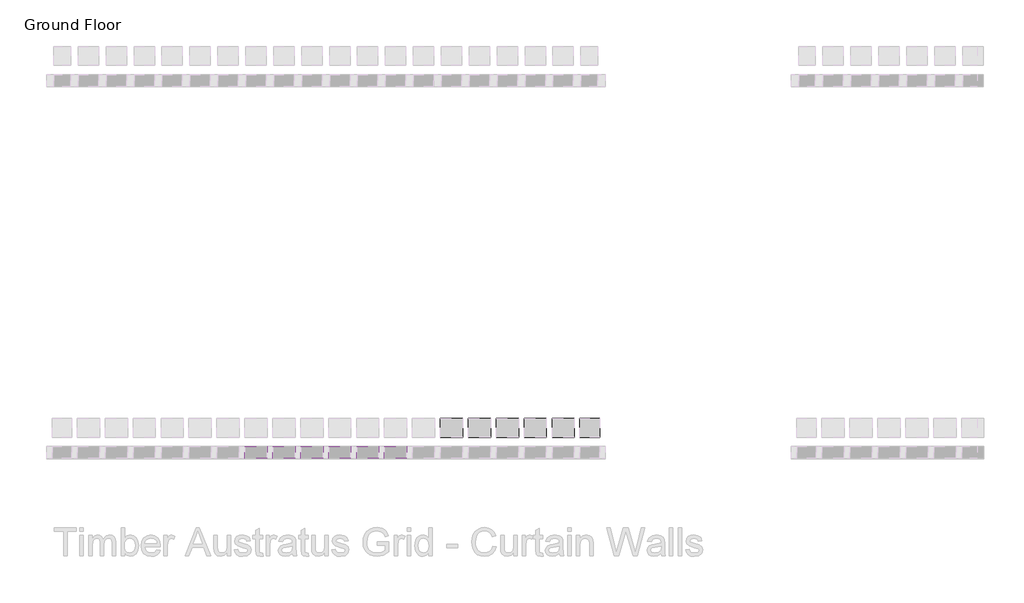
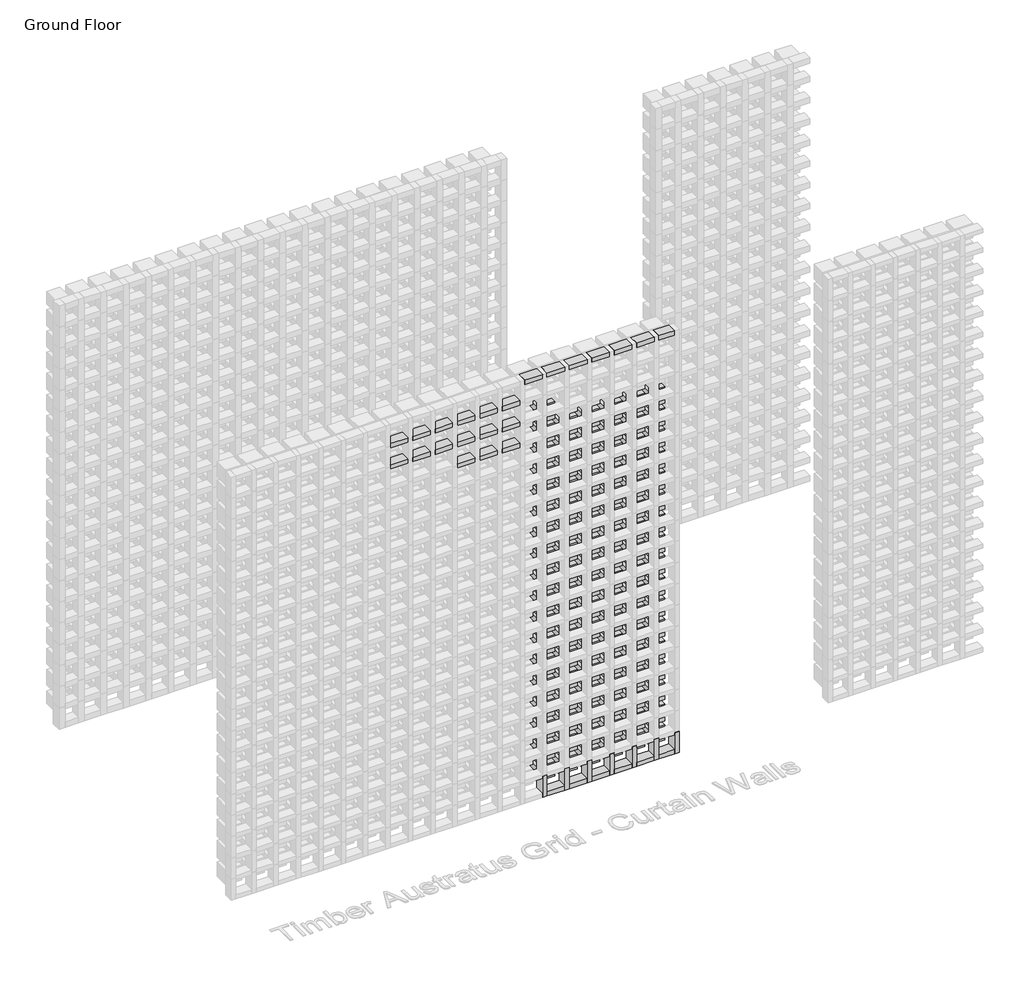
# One storey, part 52 of 350: 103 plates, 35 members.
"""IFC4 building model written with IfcOpenShell, lengths in millimetres."""

from ifc_helpers import new_model, si_unit, origin, place, context, project, spatial, transform, mapped, element, save
from components import rectangular_mullion_1c916715, rectangular_mullion_5b501421, rectangular_mullion_f2fcf417, rectangular_mullion_51467dcc, rectangular_mullion_27b03f3e, rectangular_mullion_d4c9a775, rectangular_mullion_a9727e9f, empty_system_panel_empty_a57e421f, empty_system_panel_empty_fe50b430, empty_system_panel_empty_3353a095, empty_system_panel_empty_0cf761f0

model = new_model("IFC4")

# Units and contexts
model_context = context("Model", 3, world=origin())
ifc_project = project(units=[si_unit("LENGTHUNIT", "METRE", prefix="MILLI")], contexts=[model_context])

# Site, building, storey
site = spatial("IfcSite", under=ifc_project)
building = spatial("IfcBuilding", under=site)
storey = spatial("IfcBuildingStorey", under=building, Name="Ground Floor", Elevation=0.0)

# Members
placement = place(None, origin())
rectangular_mullion_shape = rectangular_mullion_1c916715(model_context)
element("IfcMember", 1, ObjectType="Rectangular Mullion : Batten_Timber_Modinex_Austratus_Grid_Fascia_30x65_AlaskanYellowCedar", at=placement, inside=storey, context=model_context, shape_type="MappedRepresentation", body=[
    mapped(rectangular_mullion_shape, transform((3551.4361642, 38968.2978302, 2550.0), x_axis=(0.0, 0.0, 1.0), y_axis=(0.0, -1.0, 0.0), z_axis=(1.0, 0.0, 0.0))),
])
element("IfcMember", 2, ObjectType="Rectangular Mullion : Batten_Timber_Modinex_Austratus_Grid_Fascia_30x65_AlaskanYellowCedar", at=placement, inside=storey, context=model_context, shape_type="MappedRepresentation", body=[
    mapped(rectangular_mullion_shape, transform((3701.4361642, 38968.2978302, 2550.0), x_axis=(0.0, 0.0, 1.0), y_axis=(0.0, -1.0, 0.0), z_axis=(1.0, 0.0, 0.0))),
])
element("IfcMember", 3, ObjectType="Rectangular Mullion : Batten_Timber_Modinex_Austratus_Grid_Fascia_30x65_AlaskanYellowCedar", at=placement, inside=storey, context=model_context, shape_type="MappedRepresentation", body=[
    mapped(rectangular_mullion_shape, transform((3851.4361642, 38968.2978302, 2550.0), x_axis=(0.0, 0.0, 1.0), y_axis=(0.0, -1.0, 0.0), z_axis=(1.0, 0.0, 0.0))),
])
element("IfcMember", 4, ObjectType="Rectangular Mullion : Batten_Timber_Modinex_Austratus_Grid_Fascia_30x65_AlaskanYellowCedar", at=placement, inside=storey, context=model_context, shape_type="MappedRepresentation", body=[
    mapped(rectangular_mullion_shape, transform((3101.4361642, 38968.2978302, 2700.0), x_axis=(0.0, 0.0, 1.0), y_axis=(0.0, -1.0, 0.0), z_axis=(1.0, 0.0, 0.0))),
])
element("IfcMember", 5, ObjectType="Rectangular Mullion : Batten_Timber_Modinex_Austratus_Grid_Fascia_30x65_AlaskanYellowCedar", at=placement, inside=storey, context=model_context, shape_type="MappedRepresentation", body=[
    mapped(rectangular_mullion_shape, transform((3251.4361642, 38968.2978302, 2700.0), x_axis=(0.0, 0.0, 1.0), y_axis=(0.0, -1.0, 0.0), z_axis=(1.0, 0.0, 0.0))),
])
element("IfcMember", 6, ObjectType="Rectangular Mullion : Batten_Timber_Modinex_Austratus_Grid_Fascia_30x65_AlaskanYellowCedar", at=placement, inside=storey, context=model_context, shape_type="MappedRepresentation", body=[
    mapped(rectangular_mullion_shape, transform((3401.4361642, 38968.2978302, 2700.0), x_axis=(0.0, 0.0, 1.0), y_axis=(0.0, -1.0, 0.0), z_axis=(1.0, 0.0, 0.0))),
])
element("IfcMember", 7, ObjectType="Rectangular Mullion : Batten_Timber_Modinex_Austratus_Grid_Fascia_30x65_AlaskanYellowCedar", at=placement, inside=storey, context=model_context, shape_type="MappedRepresentation", body=[
    mapped(rectangular_mullion_shape, transform((3551.4361642, 38968.2978302, 2700.0), x_axis=(0.0, 0.0, 1.0), y_axis=(0.0, -1.0, 0.0), z_axis=(1.0, 0.0, 0.0))),
])
element("IfcMember", 8, ObjectType="Rectangular Mullion : Batten_Timber_Modinex_Austratus_Grid_Fascia_30x65_AlaskanYellowCedar", at=placement, inside=storey, context=model_context, shape_type="MappedRepresentation", body=[
    mapped(rectangular_mullion_shape, transform((3701.4361642, 38968.2978302, 2700.0), x_axis=(0.0, 0.0, 1.0), y_axis=(0.0, -1.0, 0.0), z_axis=(1.0, 0.0, 0.0))),
])
element("IfcMember", 9, ObjectType="Rectangular Mullion : Batten_Timber_Modinex_Austratus_Grid_Fascia_30x65_AlaskanYellowCedar", at=placement, inside=storey, context=model_context, shape_type="MappedRepresentation", body=[
    mapped(rectangular_mullion_shape, transform((3851.4361642, 38968.2978302, 2700.0), x_axis=(0.0, 0.0, 1.0), y_axis=(0.0, -1.0, 0.0), z_axis=(1.0, 0.0, 0.0))),
])
element("IfcMember", 10, ObjectType="Rectangular Mullion : Batten_Timber_Modinex_Austratus_Grid_Fascia_30x65_AlaskanYellowCedar", at=placement, inside=storey, context=model_context, shape_type="MappedRepresentation", body=[
    mapped(rectangular_mullion_shape, transform((3101.4361642, 38968.2978302, 2850.0), x_axis=(0.0, 0.0, 1.0), y_axis=(0.0, -1.0, 0.0), z_axis=(1.0, 0.0, 0.0))),
])
element("IfcMember", 11, ObjectType="Rectangular Mullion : Batten_Timber_Modinex_Austratus_Grid_Fascia_30x65_AlaskanYellowCedar", at=placement, inside=storey, context=model_context, shape_type="MappedRepresentation", body=[
    mapped(rectangular_mullion_shape, transform((3251.4361642, 38968.2978302, 2850.0), x_axis=(0.0, 0.0, 1.0), y_axis=(0.0, -1.0, 0.0), z_axis=(1.0, 0.0, 0.0))),
])
element("IfcMember", 12, ObjectType="Rectangular Mullion : Batten_Timber_Modinex_Austratus_Grid_Fascia_30x65_AlaskanYellowCedar", at=placement, inside=storey, context=model_context, shape_type="MappedRepresentation", body=[
    mapped(rectangular_mullion_shape, transform((3401.4361642, 38968.2978302, 2850.0), x_axis=(0.0, 0.0, 1.0), y_axis=(0.0, -1.0, 0.0), z_axis=(1.0, 0.0, 0.0))),
])
element("IfcMember", 13, ObjectType="Rectangular Mullion : Batten_Timber_Modinex_Austratus_Grid_Fascia_30x65_AlaskanYellowCedar", at=placement, inside=storey, context=model_context, shape_type="MappedRepresentation", body=[
    mapped(rectangular_mullion_shape, transform((3551.4361642, 38968.2978302, 2850.0), x_axis=(0.0, 0.0, 1.0), y_axis=(0.0, -1.0, 0.0), z_axis=(1.0, 0.0, 0.0))),
])
element("IfcMember", 14, ObjectType="Rectangular Mullion : Batten_Timber_Modinex_Austratus_Grid_Fascia_30x65_AlaskanYellowCedar", at=placement, inside=storey, context=model_context, shape_type="MappedRepresentation", body=[
    mapped(rectangular_mullion_shape, transform((3701.4361642, 38968.2978302, 2850.0), x_axis=(0.0, 0.0, 1.0), y_axis=(0.0, -1.0, 0.0), z_axis=(1.0, 0.0, 0.0))),
])
element("IfcMember", 15, ObjectType="Rectangular Mullion : Batten_Timber_Modinex_Austratus_Grid_Fascia_30x65_AlaskanYellowCedar", at=placement, inside=storey, context=model_context, shape_type="MappedRepresentation", body=[
    mapped(rectangular_mullion_shape, transform((3851.4361642, 38968.2978302, 2850.0), x_axis=(0.0, 0.0, 1.0), y_axis=(0.0, -1.0, 0.0), z_axis=(1.0, 0.0, 0.0))),
])
rectangular_mullion_2_shape = rectangular_mullion_5b501421(model_context)
element("IfcMember", 16, ObjectType="Rectangular Mullion : Batten_Timber_Modinex_Austratus_Grid_Fascia_30x65_AlaskanYellowCedar", at=placement, inside=storey, context=model_context, shape_type="MappedRepresentation", body=[
    mapped(rectangular_mullion_2_shape, transform((4016.4361642, 38968.2978302, 0.0), x_axis=(1.0, 0.0, 0.0), y_axis=(0.0, -1.0, 0.0), z_axis=(0.0, 0.0, -1.0))),
])
element("IfcMember", 17, ObjectType="Rectangular Mullion : Batten_Timber_Modinex_Austratus_Grid_Fascia_30x65_AlaskanYellowCedar", at=placement, inside=storey, context=model_context, shape_type="MappedRepresentation", body=[
    mapped(rectangular_mullion_2_shape, transform((4166.4361642, 38968.2978302, 0.0), x_axis=(1.0, 0.0, 0.0), y_axis=(0.0, -1.0, 0.0), z_axis=(0.0, 0.0, -1.0))),
])
element("IfcMember", 18, ObjectType="Rectangular Mullion : Batten_Timber_Modinex_Austratus_Grid_Fascia_30x65_AlaskanYellowCedar", at=placement, inside=storey, context=model_context, shape_type="MappedRepresentation", body=[
    mapped(rectangular_mullion_2_shape, transform((4316.4361642, 38968.2978302, 0.0), x_axis=(1.0, 0.0, 0.0), y_axis=(0.0, -1.0, 0.0), z_axis=(0.0, 0.0, -1.0))),
])
element("IfcMember", 19, ObjectType="Rectangular Mullion : Batten_Timber_Modinex_Austratus_Grid_Fascia_30x65_AlaskanYellowCedar", at=placement, inside=storey, context=model_context, shape_type="MappedRepresentation", body=[
    mapped(rectangular_mullion_2_shape, transform((4466.4361642, 38968.2978302, 0.0), x_axis=(1.0, 0.0, 0.0), y_axis=(0.0, -1.0, 0.0), z_axis=(0.0, 0.0, -1.0))),
])
element("IfcMember", 20, ObjectType="Rectangular Mullion : Batten_Timber_Modinex_Austratus_Grid_Fascia_30x65_AlaskanYellowCedar", at=placement, inside=storey, context=model_context, shape_type="MappedRepresentation", body=[
    mapped(rectangular_mullion_2_shape, transform((4616.4361642, 38968.2978302, 0.0), x_axis=(1.0, 0.0, 0.0), y_axis=(0.0, -1.0, 0.0), z_axis=(0.0, 0.0, -1.0))),
])
element("IfcMember", 21, ObjectType="Rectangular Mullion : Batten_Timber_Modinex_Austratus_Grid_Fascia_30x65_AlaskanYellowCedar", at=placement, inside=storey, context=model_context, shape_type="MappedRepresentation", body=[
    mapped(rectangular_mullion_2_shape, transform((4766.4361642, 38968.2978302, 0.0), x_axis=(1.0, 0.0, 0.0), y_axis=(0.0, -1.0, 0.0), z_axis=(0.0, 0.0, -1.0))),
])
rectangular_mullion_3_shape = rectangular_mullion_f2fcf417(model_context)
element("IfcMember", 22, ObjectType="Rectangular Mullion : Batten_Timber_Modinex_Austratus_Grid_Fascia_30x65_AlaskanYellowCedar", at=placement, inside=storey, context=model_context, shape_type="MappedRepresentation", body=[
    mapped(rectangular_mullion_3_shape, transform((4886.4361639, 38968.2978302, 3000.0), x_axis=(0.0, 0.0, 1.0), y_axis=(0.0, -1.0, 0.0), z_axis=(1.0, 0.0, 0.0))),
])
rectangular_mullion_4_shape = rectangular_mullion_51467dcc(model_context)
element("IfcMember", 23, ObjectType="Rectangular Mullion : Batten_Timber_Modinex_Austratus_Grid_Fascia_30x65_AlaskanYellowCedar", at=placement, inside=storey, context=model_context, shape_type="MappedRepresentation", body=[
    mapped(rectangular_mullion_4_shape, transform((4001.4361642, 38968.2978302, 3000.0), x_axis=(0.0, 0.0, 1.0), y_axis=(0.0, -1.0, 0.0), z_axis=(1.0, 0.0, 0.0))),
])
element("IfcMember", 24, ObjectType="Rectangular Mullion : Batten_Timber_Modinex_Austratus_Grid_Fascia_30x65_AlaskanYellowCedar", at=placement, inside=storey, context=model_context, shape_type="MappedRepresentation", body=[
    mapped(rectangular_mullion_4_shape, transform((4151.4361642, 38968.2978302, 3000.0), x_axis=(0.0, 0.0, 1.0), y_axis=(0.0, -1.0, 0.0), z_axis=(1.0, 0.0, 0.0))),
])
element("IfcMember", 25, ObjectType="Rectangular Mullion : Batten_Timber_Modinex_Austratus_Grid_Fascia_30x65_AlaskanYellowCedar", at=placement, inside=storey, context=model_context, shape_type="MappedRepresentation", body=[
    mapped(rectangular_mullion_4_shape, transform((4301.4361642, 38968.2978302, 3000.0), x_axis=(0.0, 0.0, 1.0), y_axis=(0.0, -1.0, 0.0), z_axis=(1.0, 0.0, 0.0))),
])
element("IfcMember", 26, ObjectType="Rectangular Mullion : Batten_Timber_Modinex_Austratus_Grid_Fascia_30x65_AlaskanYellowCedar", at=placement, inside=storey, context=model_context, shape_type="MappedRepresentation", body=[
    mapped(rectangular_mullion_4_shape, transform((4451.4361642, 38968.2978302, 3000.0), x_axis=(0.0, 0.0, 1.0), y_axis=(0.0, -1.0, 0.0), z_axis=(1.0, 0.0, 0.0))),
])
element("IfcMember", 27, ObjectType="Rectangular Mullion : Batten_Timber_Modinex_Austratus_Grid_Fascia_30x65_AlaskanYellowCedar", at=placement, inside=storey, context=model_context, shape_type="MappedRepresentation", body=[
    mapped(rectangular_mullion_4_shape, transform((4601.4361642, 38968.2978302, 3000.0), x_axis=(0.0, 0.0, 1.0), y_axis=(0.0, -1.0, 0.0), z_axis=(1.0, 0.0, 0.0))),
])
element("IfcMember", 28, ObjectType="Rectangular Mullion : Batten_Timber_Modinex_Austratus_Grid_Fascia_30x65_AlaskanYellowCedar", at=placement, inside=storey, context=model_context, shape_type="MappedRepresentation", body=[
    mapped(rectangular_mullion_4_shape, transform((4751.4361642, 38968.2978302, 3000.0), x_axis=(0.0, 0.0, 1.0), y_axis=(0.0, -1.0, 0.0), z_axis=(1.0, 0.0, 0.0))),
])
rectangular_mullion_5_shape = rectangular_mullion_27b03f3e(model_context)
element("IfcMember", 29, ObjectType="Rectangular Mullion : Batten_Timber_Modinex_Austratus_Grid_Fascia_30x65_AlaskanYellowCedar", at=placement, inside=storey, context=model_context, shape_type="MappedRepresentation", body=[
    mapped(rectangular_mullion_5_shape, transform((4781.4361642, 38968.2978302, 0.0), x_axis=(0.0, 0.0, -1.0), y_axis=(0.0, -1.0, 0.0), z_axis=(-1.0, 0.0, 0.0))),
])
rectangular_mullion_6_shape = rectangular_mullion_d4c9a775(model_context)
element("IfcMember", 30, ObjectType="Rectangular Mullion : Batten_Timber_Modinex_Austratus_Grid_Fascia_30x65_AlaskanYellowCedar", at=placement, inside=storey, context=model_context, shape_type="MappedRepresentation", body=[
    mapped(rectangular_mullion_6_shape, transform((4031.4361642, 38968.2978302, 0.0), x_axis=(0.0, 0.0, -1.0), y_axis=(0.0, -1.0, 0.0), z_axis=(-1.0, 0.0, 0.0))),
])
element("IfcMember", 31, ObjectType="Rectangular Mullion : Batten_Timber_Modinex_Austratus_Grid_Fascia_30x65_AlaskanYellowCedar", at=placement, inside=storey, context=model_context, shape_type="MappedRepresentation", body=[
    mapped(rectangular_mullion_6_shape, transform((4181.4361642, 38968.2978302, 0.0), x_axis=(0.0, 0.0, -1.0), y_axis=(0.0, -1.0, 0.0), z_axis=(-1.0, 0.0, 0.0))),
])
element("IfcMember", 32, ObjectType="Rectangular Mullion : Batten_Timber_Modinex_Austratus_Grid_Fascia_30x65_AlaskanYellowCedar", at=placement, inside=storey, context=model_context, shape_type="MappedRepresentation", body=[
    mapped(rectangular_mullion_6_shape, transform((4331.4361642, 38968.2978302, 0.0), x_axis=(0.0, 0.0, -1.0), y_axis=(0.0, -1.0, 0.0), z_axis=(-1.0, 0.0, 0.0))),
])
element("IfcMember", 33, ObjectType="Rectangular Mullion : Batten_Timber_Modinex_Austratus_Grid_Fascia_30x65_AlaskanYellowCedar", at=placement, inside=storey, context=model_context, shape_type="MappedRepresentation", body=[
    mapped(rectangular_mullion_6_shape, transform((4481.4361642, 38968.2978302, 0.0), x_axis=(0.0, 0.0, -1.0), y_axis=(0.0, -1.0, 0.0), z_axis=(-1.0, 0.0, 0.0))),
])
element("IfcMember", 34, ObjectType="Rectangular Mullion : Batten_Timber_Modinex_Austratus_Grid_Fascia_30x65_AlaskanYellowCedar", at=placement, inside=storey, context=model_context, shape_type="MappedRepresentation", body=[
    mapped(rectangular_mullion_6_shape, transform((4631.4361642, 38968.2978302, 0.0), x_axis=(0.0, 0.0, -1.0), y_axis=(0.0, -1.0, 0.0), z_axis=(-1.0, 0.0, 0.0))),
])
rectangular_mullion_7_shape = rectangular_mullion_a9727e9f(model_context)
element("IfcMember", 35, ObjectType="Rectangular Mullion : Batten_Timber_Modinex_Austratus_Grid_Fascia_30x65_AlaskanYellowCedar", at=placement, inside=storey, context=model_context, shape_type="MappedRepresentation", body=[
    mapped(rectangular_mullion_7_shape, transform((4916.4361639, 38968.2978302, 0.0), x_axis=(1.0, 0.0, 0.0), y_axis=(0.0, -1.0, 0.0), z_axis=(0.0, 0.0, -1.0))),
])

# Plates
empty_system_panel_empty_shape = empty_system_panel_empty_a57e421f(model_context)
element("IfcPlate", 36, ObjectType="Empty System Panel : Empty", at=placement, inside=storey, context=model_context, shape_type="MappedRepresentation", body=[
    mapped(empty_system_panel_empty_shape, transform((4091.4361642, 38968.2978302, 165.0), x_axis=(1.0, 0.0, 0.0), y_axis=(0.0, 1.0, 0.0), z_axis=(0.0, 0.0, 1.0))),
])
element("IfcPlate", 37, ObjectType="Empty System Panel : Empty", at=placement, inside=storey, context=model_context, shape_type="MappedRepresentation", body=[
    mapped(empty_system_panel_empty_shape, transform((4241.4361642, 38968.2978302, 165.0), x_axis=(1.0, 0.0, 0.0), y_axis=(0.0, 1.0, 0.0), z_axis=(0.0, 0.0, 1.0))),
])
element("IfcPlate", 38, ObjectType="Empty System Panel : Empty", at=placement, inside=storey, context=model_context, shape_type="MappedRepresentation", body=[
    mapped(empty_system_panel_empty_shape, transform((4391.4361642, 38968.2978302, 165.0), x_axis=(1.0, 0.0, 0.0), y_axis=(0.0, 1.0, 0.0), z_axis=(0.0, 0.0, 1.0))),
])
element("IfcPlate", 39, ObjectType="Empty System Panel : Empty", at=placement, inside=storey, context=model_context, shape_type="MappedRepresentation", body=[
    mapped(empty_system_panel_empty_shape, transform((4541.4361642, 38968.2978302, 165.0), x_axis=(1.0, 0.0, 0.0), y_axis=(0.0, 1.0, 0.0), z_axis=(0.0, 0.0, 1.0))),
])
element("IfcPlate", 40, ObjectType="Empty System Panel : Empty", at=placement, inside=storey, context=model_context, shape_type="MappedRepresentation", body=[
    mapped(empty_system_panel_empty_shape, transform((4691.4361642, 38968.2978302, 165.0), x_axis=(1.0, 0.0, 0.0), y_axis=(0.0, 1.0, 0.0), z_axis=(0.0, 0.0, 1.0))),
])
element("IfcPlate", 41, ObjectType="Empty System Panel : Empty", at=placement, inside=storey, context=model_context, shape_type="MappedRepresentation", body=[
    mapped(empty_system_panel_empty_shape, transform((4091.4361642, 38968.2978302, 315.0), x_axis=(1.0, 0.0, 0.0), y_axis=(0.0, 1.0, 0.0), z_axis=(0.0, 0.0, 1.0))),
])
element("IfcPlate", 42, ObjectType="Empty System Panel : Empty", at=placement, inside=storey, context=model_context, shape_type="MappedRepresentation", body=[
    mapped(empty_system_panel_empty_shape, transform((4241.4361642, 38968.2978302, 315.0), x_axis=(1.0, 0.0, 0.0), y_axis=(0.0, 1.0, 0.0), z_axis=(0.0, 0.0, 1.0))),
])
element("IfcPlate", 43, ObjectType="Empty System Panel : Empty", at=placement, inside=storey, context=model_context, shape_type="MappedRepresentation", body=[
    mapped(empty_system_panel_empty_shape, transform((4391.4361642, 38968.2978302, 315.0), x_axis=(1.0, 0.0, 0.0), y_axis=(0.0, 1.0, 0.0), z_axis=(0.0, 0.0, 1.0))),
])
element("IfcPlate", 44, ObjectType="Empty System Panel : Empty", at=placement, inside=storey, context=model_context, shape_type="MappedRepresentation", body=[
    mapped(empty_system_panel_empty_shape, transform((4541.4361642, 38968.2978302, 315.0), x_axis=(1.0, 0.0, 0.0), y_axis=(0.0, 1.0, 0.0), z_axis=(0.0, 0.0, 1.0))),
])
element("IfcPlate", 45, ObjectType="Empty System Panel : Empty", at=placement, inside=storey, context=model_context, shape_type="MappedRepresentation", body=[
    mapped(empty_system_panel_empty_shape, transform((4691.4361642, 38968.2978302, 315.0), x_axis=(1.0, 0.0, 0.0), y_axis=(0.0, 1.0, 0.0), z_axis=(0.0, 0.0, 1.0))),
])
element("IfcPlate", 46, ObjectType="Empty System Panel : Empty", at=placement, inside=storey, context=model_context, shape_type="MappedRepresentation", body=[
    mapped(empty_system_panel_empty_shape, transform((4091.4361642, 38968.2978302, 465.0), x_axis=(1.0, 0.0, 0.0), y_axis=(0.0, 1.0, 0.0), z_axis=(0.0, 0.0, 1.0))),
])
element("IfcPlate", 47, ObjectType="Empty System Panel : Empty", at=placement, inside=storey, context=model_context, shape_type="MappedRepresentation", body=[
    mapped(empty_system_panel_empty_shape, transform((4241.4361642, 38968.2978302, 465.0), x_axis=(1.0, 0.0, 0.0), y_axis=(0.0, 1.0, 0.0), z_axis=(0.0, 0.0, 1.0))),
])
element("IfcPlate", 48, ObjectType="Empty System Panel : Empty", at=placement, inside=storey, context=model_context, shape_type="MappedRepresentation", body=[
    mapped(empty_system_panel_empty_shape, transform((4391.4361642, 38968.2978302, 465.0), x_axis=(1.0, 0.0, 0.0), y_axis=(0.0, 1.0, 0.0), z_axis=(0.0, 0.0, 1.0))),
])
element("IfcPlate", 49, ObjectType="Empty System Panel : Empty", at=placement, inside=storey, context=model_context, shape_type="MappedRepresentation", body=[
    mapped(empty_system_panel_empty_shape, transform((4541.4361642, 38968.2978302, 465.0), x_axis=(1.0, 0.0, 0.0), y_axis=(0.0, 1.0, 0.0), z_axis=(0.0, 0.0, 1.0))),
])
element("IfcPlate", 50, ObjectType="Empty System Panel : Empty", at=placement, inside=storey, context=model_context, shape_type="MappedRepresentation", body=[
    mapped(empty_system_panel_empty_shape, transform((4691.4361642, 38968.2978302, 465.0), x_axis=(1.0, 0.0, 0.0), y_axis=(0.0, 1.0, 0.0), z_axis=(0.0, 0.0, 1.0))),
])
element("IfcPlate", 51, ObjectType="Empty System Panel : Empty", at=placement, inside=storey, context=model_context, shape_type="MappedRepresentation", body=[
    mapped(empty_system_panel_empty_shape, transform((4091.4361642, 38968.2978302, 615.0), x_axis=(1.0, 0.0, 0.0), y_axis=(0.0, 1.0, 0.0), z_axis=(0.0, 0.0, 1.0))),
])
element("IfcPlate", 52, ObjectType="Empty System Panel : Empty", at=placement, inside=storey, context=model_context, shape_type="MappedRepresentation", body=[
    mapped(empty_system_panel_empty_shape, transform((4241.4361642, 38968.2978302, 615.0), x_axis=(1.0, 0.0, 0.0), y_axis=(0.0, 1.0, 0.0), z_axis=(0.0, 0.0, 1.0))),
])
element("IfcPlate", 53, ObjectType="Empty System Panel : Empty", at=placement, inside=storey, context=model_context, shape_type="MappedRepresentation", body=[
    mapped(empty_system_panel_empty_shape, transform((4391.4361642, 38968.2978302, 615.0), x_axis=(1.0, 0.0, 0.0), y_axis=(0.0, 1.0, 0.0), z_axis=(0.0, 0.0, 1.0))),
])
element("IfcPlate", 54, ObjectType="Empty System Panel : Empty", at=placement, inside=storey, context=model_context, shape_type="MappedRepresentation", body=[
    mapped(empty_system_panel_empty_shape, transform((4541.4361642, 38968.2978302, 615.0), x_axis=(1.0, 0.0, 0.0), y_axis=(0.0, 1.0, 0.0), z_axis=(0.0, 0.0, 1.0))),
])
element("IfcPlate", 55, ObjectType="Empty System Panel : Empty", at=placement, inside=storey, context=model_context, shape_type="MappedRepresentation", body=[
    mapped(empty_system_panel_empty_shape, transform((4691.4361642, 38968.2978302, 615.0), x_axis=(1.0, 0.0, 0.0), y_axis=(0.0, 1.0, 0.0), z_axis=(0.0, 0.0, 1.0))),
])
element("IfcPlate", 56, ObjectType="Empty System Panel : Empty", at=placement, inside=storey, context=model_context, shape_type="MappedRepresentation", body=[
    mapped(empty_system_panel_empty_shape, transform((4091.4361642, 38968.2978302, 765.0), x_axis=(1.0, 0.0, 0.0), y_axis=(0.0, 1.0, 0.0), z_axis=(0.0, 0.0, 1.0))),
])
element("IfcPlate", 57, ObjectType="Empty System Panel : Empty", at=placement, inside=storey, context=model_context, shape_type="MappedRepresentation", body=[
    mapped(empty_system_panel_empty_shape, transform((4241.4361642, 38968.2978302, 765.0), x_axis=(1.0, 0.0, 0.0), y_axis=(0.0, 1.0, 0.0), z_axis=(0.0, 0.0, 1.0))),
])
element("IfcPlate", 58, ObjectType="Empty System Panel : Empty", at=placement, inside=storey, context=model_context, shape_type="MappedRepresentation", body=[
    mapped(empty_system_panel_empty_shape, transform((4391.4361642, 38968.2978302, 765.0), x_axis=(1.0, 0.0, 0.0), y_axis=(0.0, 1.0, 0.0), z_axis=(0.0, 0.0, 1.0))),
])
element("IfcPlate", 59, ObjectType="Empty System Panel : Empty", at=placement, inside=storey, context=model_context, shape_type="MappedRepresentation", body=[
    mapped(empty_system_panel_empty_shape, transform((4541.4361642, 38968.2978302, 765.0), x_axis=(1.0, 0.0, 0.0), y_axis=(0.0, 1.0, 0.0), z_axis=(0.0, 0.0, 1.0))),
])
element("IfcPlate", 60, ObjectType="Empty System Panel : Empty", at=placement, inside=storey, context=model_context, shape_type="MappedRepresentation", body=[
    mapped(empty_system_panel_empty_shape, transform((4691.4361642, 38968.2978302, 765.0), x_axis=(1.0, 0.0, 0.0), y_axis=(0.0, 1.0, 0.0), z_axis=(0.0, 0.0, 1.0))),
])
element("IfcPlate", 61, ObjectType="Empty System Panel : Empty", at=placement, inside=storey, context=model_context, shape_type="MappedRepresentation", body=[
    mapped(empty_system_panel_empty_shape, transform((4091.4361642, 38968.2978302, 915.0), x_axis=(1.0, 0.0, 0.0), y_axis=(0.0, 1.0, 0.0), z_axis=(0.0, 0.0, 1.0))),
])
element("IfcPlate", 62, ObjectType="Empty System Panel : Empty", at=placement, inside=storey, context=model_context, shape_type="MappedRepresentation", body=[
    mapped(empty_system_panel_empty_shape, transform((4241.4361642, 38968.2978302, 915.0), x_axis=(1.0, 0.0, 0.0), y_axis=(0.0, 1.0, 0.0), z_axis=(0.0, 0.0, 1.0))),
])
element("IfcPlate", 63, ObjectType="Empty System Panel : Empty", at=placement, inside=storey, context=model_context, shape_type="MappedRepresentation", body=[
    mapped(empty_system_panel_empty_shape, transform((4391.4361642, 38968.2978302, 915.0), x_axis=(1.0, 0.0, 0.0), y_axis=(0.0, 1.0, 0.0), z_axis=(0.0, 0.0, 1.0))),
])
element("IfcPlate", 64, ObjectType="Empty System Panel : Empty", at=placement, inside=storey, context=model_context, shape_type="MappedRepresentation", body=[
    mapped(empty_system_panel_empty_shape, transform((4541.4361642, 38968.2978302, 915.0), x_axis=(1.0, 0.0, 0.0), y_axis=(0.0, 1.0, 0.0), z_axis=(0.0, 0.0, 1.0))),
])
element("IfcPlate", 65, ObjectType="Empty System Panel : Empty", at=placement, inside=storey, context=model_context, shape_type="MappedRepresentation", body=[
    mapped(empty_system_panel_empty_shape, transform((4691.4361642, 38968.2978302, 915.0), x_axis=(1.0, 0.0, 0.0), y_axis=(0.0, 1.0, 0.0), z_axis=(0.0, 0.0, 1.0))),
])
element("IfcPlate", 66, ObjectType="Empty System Panel : Empty", at=placement, inside=storey, context=model_context, shape_type="MappedRepresentation", body=[
    mapped(empty_system_panel_empty_shape, transform((4091.4361642, 38968.2978302, 1065.0), x_axis=(1.0, 0.0, 0.0), y_axis=(0.0, 1.0, 0.0), z_axis=(0.0, 0.0, 1.0))),
])
element("IfcPlate", 67, ObjectType="Empty System Panel : Empty", at=placement, inside=storey, context=model_context, shape_type="MappedRepresentation", body=[
    mapped(empty_system_panel_empty_shape, transform((4241.4361642, 38968.2978302, 1065.0), x_axis=(1.0, 0.0, 0.0), y_axis=(0.0, 1.0, 0.0), z_axis=(0.0, 0.0, 1.0))),
])
element("IfcPlate", 68, ObjectType="Empty System Panel : Empty", at=placement, inside=storey, context=model_context, shape_type="MappedRepresentation", body=[
    mapped(empty_system_panel_empty_shape, transform((4391.4361642, 38968.2978302, 1065.0), x_axis=(1.0, 0.0, 0.0), y_axis=(0.0, 1.0, 0.0), z_axis=(0.0, 0.0, 1.0))),
])
element("IfcPlate", 69, ObjectType="Empty System Panel : Empty", at=placement, inside=storey, context=model_context, shape_type="MappedRepresentation", body=[
    mapped(empty_system_panel_empty_shape, transform((4541.4361642, 38968.2978302, 1065.0), x_axis=(1.0, 0.0, 0.0), y_axis=(0.0, 1.0, 0.0), z_axis=(0.0, 0.0, 1.0))),
])
element("IfcPlate", 70, ObjectType="Empty System Panel : Empty", at=placement, inside=storey, context=model_context, shape_type="MappedRepresentation", body=[
    mapped(empty_system_panel_empty_shape, transform((4691.4361642, 38968.2978302, 1065.0), x_axis=(1.0, 0.0, 0.0), y_axis=(0.0, 1.0, 0.0), z_axis=(0.0, 0.0, 1.0))),
])
element("IfcPlate", 71, ObjectType="Empty System Panel : Empty", at=placement, inside=storey, context=model_context, shape_type="MappedRepresentation", body=[
    mapped(empty_system_panel_empty_shape, transform((4091.4361642, 38968.2978302, 1215.0), x_axis=(1.0, 0.0, 0.0), y_axis=(0.0, 1.0, 0.0), z_axis=(0.0, 0.0, 1.0))),
])
element("IfcPlate", 72, ObjectType="Empty System Panel : Empty", at=placement, inside=storey, context=model_context, shape_type="MappedRepresentation", body=[
    mapped(empty_system_panel_empty_shape, transform((4241.4361642, 38968.2978302, 1215.0), x_axis=(1.0, 0.0, 0.0), y_axis=(0.0, 1.0, 0.0), z_axis=(0.0, 0.0, 1.0))),
])
element("IfcPlate", 73, ObjectType="Empty System Panel : Empty", at=placement, inside=storey, context=model_context, shape_type="MappedRepresentation", body=[
    mapped(empty_system_panel_empty_shape, transform((4391.4361642, 38968.2978302, 1215.0), x_axis=(1.0, 0.0, 0.0), y_axis=(0.0, 1.0, 0.0), z_axis=(0.0, 0.0, 1.0))),
])
element("IfcPlate", 74, ObjectType="Empty System Panel : Empty", at=placement, inside=storey, context=model_context, shape_type="MappedRepresentation", body=[
    mapped(empty_system_panel_empty_shape, transform((4541.4361642, 38968.2978302, 1215.0), x_axis=(1.0, 0.0, 0.0), y_axis=(0.0, 1.0, 0.0), z_axis=(0.0, 0.0, 1.0))),
])
element("IfcPlate", 75, ObjectType="Empty System Panel : Empty", at=placement, inside=storey, context=model_context, shape_type="MappedRepresentation", body=[
    mapped(empty_system_panel_empty_shape, transform((4691.4361642, 38968.2978302, 1215.0), x_axis=(1.0, 0.0, 0.0), y_axis=(0.0, 1.0, 0.0), z_axis=(0.0, 0.0, 1.0))),
])
element("IfcPlate", 76, ObjectType="Empty System Panel : Empty", at=placement, inside=storey, context=model_context, shape_type="MappedRepresentation", body=[
    mapped(empty_system_panel_empty_shape, transform((4091.4361642, 38968.2978302, 1365.0), x_axis=(1.0, 0.0, 0.0), y_axis=(0.0, 1.0, 0.0), z_axis=(0.0, 0.0, 1.0))),
])
element("IfcPlate", 77, ObjectType="Empty System Panel : Empty", at=placement, inside=storey, context=model_context, shape_type="MappedRepresentation", body=[
    mapped(empty_system_panel_empty_shape, transform((4241.4361642, 38968.2978302, 1365.0), x_axis=(1.0, 0.0, 0.0), y_axis=(0.0, 1.0, 0.0), z_axis=(0.0, 0.0, 1.0))),
])
element("IfcPlate", 78, ObjectType="Empty System Panel : Empty", at=placement, inside=storey, context=model_context, shape_type="MappedRepresentation", body=[
    mapped(empty_system_panel_empty_shape, transform((4391.4361642, 38968.2978302, 1365.0), x_axis=(1.0, 0.0, 0.0), y_axis=(0.0, 1.0, 0.0), z_axis=(0.0, 0.0, 1.0))),
])
element("IfcPlate", 79, ObjectType="Empty System Panel : Empty", at=placement, inside=storey, context=model_context, shape_type="MappedRepresentation", body=[
    mapped(empty_system_panel_empty_shape, transform((4541.4361642, 38968.2978302, 1365.0), x_axis=(1.0, 0.0, 0.0), y_axis=(0.0, 1.0, 0.0), z_axis=(0.0, 0.0, 1.0))),
])
element("IfcPlate", 80, ObjectType="Empty System Panel : Empty", at=placement, inside=storey, context=model_context, shape_type="MappedRepresentation", body=[
    mapped(empty_system_panel_empty_shape, transform((4691.4361642, 38968.2978302, 1365.0), x_axis=(1.0, 0.0, 0.0), y_axis=(0.0, 1.0, 0.0), z_axis=(0.0, 0.0, 1.0))),
])
element("IfcPlate", 81, ObjectType="Empty System Panel : Empty", at=placement, inside=storey, context=model_context, shape_type="MappedRepresentation", body=[
    mapped(empty_system_panel_empty_shape, transform((4091.4361642, 38968.2978302, 1515.0), x_axis=(1.0, 0.0, 0.0), y_axis=(0.0, 1.0, 0.0), z_axis=(0.0, 0.0, 1.0))),
])
element("IfcPlate", 82, ObjectType="Empty System Panel : Empty", at=placement, inside=storey, context=model_context, shape_type="MappedRepresentation", body=[
    mapped(empty_system_panel_empty_shape, transform((4241.4361642, 38968.2978302, 1515.0), x_axis=(1.0, 0.0, 0.0), y_axis=(0.0, 1.0, 0.0), z_axis=(0.0, 0.0, 1.0))),
])
element("IfcPlate", 83, ObjectType="Empty System Panel : Empty", at=placement, inside=storey, context=model_context, shape_type="MappedRepresentation", body=[
    mapped(empty_system_panel_empty_shape, transform((4391.4361642, 38968.2978302, 1515.0), x_axis=(1.0, 0.0, 0.0), y_axis=(0.0, 1.0, 0.0), z_axis=(0.0, 0.0, 1.0))),
])
element("IfcPlate", 84, ObjectType="Empty System Panel : Empty", at=placement, inside=storey, context=model_context, shape_type="MappedRepresentation", body=[
    mapped(empty_system_panel_empty_shape, transform((4541.4361642, 38968.2978302, 1515.0), x_axis=(1.0, 0.0, 0.0), y_axis=(0.0, 1.0, 0.0), z_axis=(0.0, 0.0, 1.0))),
])
element("IfcPlate", 85, ObjectType="Empty System Panel : Empty", at=placement, inside=storey, context=model_context, shape_type="MappedRepresentation", body=[
    mapped(empty_system_panel_empty_shape, transform((4691.4361642, 38968.2978302, 1515.0), x_axis=(1.0, 0.0, 0.0), y_axis=(0.0, 1.0, 0.0), z_axis=(0.0, 0.0, 1.0))),
])
element("IfcPlate", 86, ObjectType="Empty System Panel : Empty", at=placement, inside=storey, context=model_context, shape_type="MappedRepresentation", body=[
    mapped(empty_system_panel_empty_shape, transform((4091.4361642, 38968.2978302, 1665.0), x_axis=(1.0, 0.0, 0.0), y_axis=(0.0, 1.0, 0.0), z_axis=(0.0, 0.0, 1.0))),
])
element("IfcPlate", 87, ObjectType="Empty System Panel : Empty", at=placement, inside=storey, context=model_context, shape_type="MappedRepresentation", body=[
    mapped(empty_system_panel_empty_shape, transform((4241.4361642, 38968.2978302, 1665.0), x_axis=(1.0, 0.0, 0.0), y_axis=(0.0, 1.0, 0.0), z_axis=(0.0, 0.0, 1.0))),
])
element("IfcPlate", 88, ObjectType="Empty System Panel : Empty", at=placement, inside=storey, context=model_context, shape_type="MappedRepresentation", body=[
    mapped(empty_system_panel_empty_shape, transform((4391.4361642, 38968.2978302, 1665.0), x_axis=(1.0, 0.0, 0.0), y_axis=(0.0, 1.0, 0.0), z_axis=(0.0, 0.0, 1.0))),
])
element("IfcPlate", 89, ObjectType="Empty System Panel : Empty", at=placement, inside=storey, context=model_context, shape_type="MappedRepresentation", body=[
    mapped(empty_system_panel_empty_shape, transform((4541.4361642, 38968.2978302, 1665.0), x_axis=(1.0, 0.0, 0.0), y_axis=(0.0, 1.0, 0.0), z_axis=(0.0, 0.0, 1.0))),
])
element("IfcPlate", 90, ObjectType="Empty System Panel : Empty", at=placement, inside=storey, context=model_context, shape_type="MappedRepresentation", body=[
    mapped(empty_system_panel_empty_shape, transform((4691.4361642, 38968.2978302, 1665.0), x_axis=(1.0, 0.0, 0.0), y_axis=(0.0, 1.0, 0.0), z_axis=(0.0, 0.0, 1.0))),
])
element("IfcPlate", 91, ObjectType="Empty System Panel : Empty", at=placement, inside=storey, context=model_context, shape_type="MappedRepresentation", body=[
    mapped(empty_system_panel_empty_shape, transform((4091.4361642, 38968.2978302, 1815.0), x_axis=(1.0, 0.0, 0.0), y_axis=(0.0, 1.0, 0.0), z_axis=(0.0, 0.0, 1.0))),
])
element("IfcPlate", 92, ObjectType="Empty System Panel : Empty", at=placement, inside=storey, context=model_context, shape_type="MappedRepresentation", body=[
    mapped(empty_system_panel_empty_shape, transform((4241.4361642, 38968.2978302, 1815.0), x_axis=(1.0, 0.0, 0.0), y_axis=(0.0, 1.0, 0.0), z_axis=(0.0, 0.0, 1.0))),
])
element("IfcPlate", 93, ObjectType="Empty System Panel : Empty", at=placement, inside=storey, context=model_context, shape_type="MappedRepresentation", body=[
    mapped(empty_system_panel_empty_shape, transform((4391.4361642, 38968.2978302, 1815.0), x_axis=(1.0, 0.0, 0.0), y_axis=(0.0, 1.0, 0.0), z_axis=(0.0, 0.0, 1.0))),
])
element("IfcPlate", 94, ObjectType="Empty System Panel : Empty", at=placement, inside=storey, context=model_context, shape_type="MappedRepresentation", body=[
    mapped(empty_system_panel_empty_shape, transform((4541.4361642, 38968.2978302, 1815.0), x_axis=(1.0, 0.0, 0.0), y_axis=(0.0, 1.0, 0.0), z_axis=(0.0, 0.0, 1.0))),
])
element("IfcPlate", 95, ObjectType="Empty System Panel : Empty", at=placement, inside=storey, context=model_context, shape_type="MappedRepresentation", body=[
    mapped(empty_system_panel_empty_shape, transform((4691.4361642, 38968.2978302, 1815.0), x_axis=(1.0, 0.0, 0.0), y_axis=(0.0, 1.0, 0.0), z_axis=(0.0, 0.0, 1.0))),
])
element("IfcPlate", 96, ObjectType="Empty System Panel : Empty", at=placement, inside=storey, context=model_context, shape_type="MappedRepresentation", body=[
    mapped(empty_system_panel_empty_shape, transform((4091.4361642, 38968.2978302, 1965.0), x_axis=(1.0, 0.0, 0.0), y_axis=(0.0, 1.0, 0.0), z_axis=(0.0, 0.0, 1.0))),
])
element("IfcPlate", 97, ObjectType="Empty System Panel : Empty", at=placement, inside=storey, context=model_context, shape_type="MappedRepresentation", body=[
    mapped(empty_system_panel_empty_shape, transform((4241.4361642, 38968.2978302, 1965.0), x_axis=(1.0, 0.0, 0.0), y_axis=(0.0, 1.0, 0.0), z_axis=(0.0, 0.0, 1.0))),
])
element("IfcPlate", 98, ObjectType="Empty System Panel : Empty", at=placement, inside=storey, context=model_context, shape_type="MappedRepresentation", body=[
    mapped(empty_system_panel_empty_shape, transform((4391.4361642, 38968.2978302, 1965.0), x_axis=(1.0, 0.0, 0.0), y_axis=(0.0, 1.0, 0.0), z_axis=(0.0, 0.0, 1.0))),
])
element("IfcPlate", 99, ObjectType="Empty System Panel : Empty", at=placement, inside=storey, context=model_context, shape_type="MappedRepresentation", body=[
    mapped(empty_system_panel_empty_shape, transform((4541.4361642, 38968.2978302, 1965.0), x_axis=(1.0, 0.0, 0.0), y_axis=(0.0, 1.0, 0.0), z_axis=(0.0, 0.0, 1.0))),
])
element("IfcPlate", 100, ObjectType="Empty System Panel : Empty", at=placement, inside=storey, context=model_context, shape_type="MappedRepresentation", body=[
    mapped(empty_system_panel_empty_shape, transform((4691.4361642, 38968.2978302, 1965.0), x_axis=(1.0, 0.0, 0.0), y_axis=(0.0, 1.0, 0.0), z_axis=(0.0, 0.0, 1.0))),
])
element("IfcPlate", 101, ObjectType="Empty System Panel : Empty", at=placement, inside=storey, context=model_context, shape_type="MappedRepresentation", body=[
    mapped(empty_system_panel_empty_shape, transform((4091.4361642, 38968.2978302, 2115.0), x_axis=(1.0, 0.0, 0.0), y_axis=(0.0, 1.0, 0.0), z_axis=(0.0, 0.0, 1.0))),
])
element("IfcPlate", 102, ObjectType="Empty System Panel : Empty", at=placement, inside=storey, context=model_context, shape_type="MappedRepresentation", body=[
    mapped(empty_system_panel_empty_shape, transform((4241.4361642, 38968.2978302, 2115.0), x_axis=(1.0, 0.0, 0.0), y_axis=(0.0, 1.0, 0.0), z_axis=(0.0, 0.0, 1.0))),
])
element("IfcPlate", 103, ObjectType="Empty System Panel : Empty", at=placement, inside=storey, context=model_context, shape_type="MappedRepresentation", body=[
    mapped(empty_system_panel_empty_shape, transform((4391.4361642, 38968.2978302, 2115.0), x_axis=(1.0, 0.0, 0.0), y_axis=(0.0, 1.0, 0.0), z_axis=(0.0, 0.0, 1.0))),
])
element("IfcPlate", 104, ObjectType="Empty System Panel : Empty", at=placement, inside=storey, context=model_context, shape_type="MappedRepresentation", body=[
    mapped(empty_system_panel_empty_shape, transform((4541.4361642, 38968.2978302, 2115.0), x_axis=(1.0, 0.0, 0.0), y_axis=(0.0, 1.0, 0.0), z_axis=(0.0, 0.0, 1.0))),
])
element("IfcPlate", 105, ObjectType="Empty System Panel : Empty", at=placement, inside=storey, context=model_context, shape_type="MappedRepresentation", body=[
    mapped(empty_system_panel_empty_shape, transform((4691.4361642, 38968.2978302, 2115.0), x_axis=(1.0, 0.0, 0.0), y_axis=(0.0, 1.0, 0.0), z_axis=(0.0, 0.0, 1.0))),
])
element("IfcPlate", 106, ObjectType="Empty System Panel : Empty", at=placement, inside=storey, context=model_context, shape_type="MappedRepresentation", body=[
    mapped(empty_system_panel_empty_shape, transform((4091.4361642, 38968.2978302, 2265.0), x_axis=(1.0, 0.0, 0.0), y_axis=(0.0, 1.0, 0.0), z_axis=(0.0, 0.0, 1.0))),
])
element("IfcPlate", 107, ObjectType="Empty System Panel : Empty", at=placement, inside=storey, context=model_context, shape_type="MappedRepresentation", body=[
    mapped(empty_system_panel_empty_shape, transform((4241.4361642, 38968.2978302, 2265.0), x_axis=(1.0, 0.0, 0.0), y_axis=(0.0, 1.0, 0.0), z_axis=(0.0, 0.0, 1.0))),
])
element("IfcPlate", 108, ObjectType="Empty System Panel : Empty", at=placement, inside=storey, context=model_context, shape_type="MappedRepresentation", body=[
    mapped(empty_system_panel_empty_shape, transform((4391.4361642, 38968.2978302, 2265.0), x_axis=(1.0, 0.0, 0.0), y_axis=(0.0, 1.0, 0.0), z_axis=(0.0, 0.0, 1.0))),
])
element("IfcPlate", 109, ObjectType="Empty System Panel : Empty", at=placement, inside=storey, context=model_context, shape_type="MappedRepresentation", body=[
    mapped(empty_system_panel_empty_shape, transform((4541.4361642, 38968.2978302, 2265.0), x_axis=(1.0, 0.0, 0.0), y_axis=(0.0, 1.0, 0.0), z_axis=(0.0, 0.0, 1.0))),
])
element("IfcPlate", 110, ObjectType="Empty System Panel : Empty", at=placement, inside=storey, context=model_context, shape_type="MappedRepresentation", body=[
    mapped(empty_system_panel_empty_shape, transform((4691.4361642, 38968.2978302, 2265.0), x_axis=(1.0, 0.0, 0.0), y_axis=(0.0, 1.0, 0.0), z_axis=(0.0, 0.0, 1.0))),
])
element("IfcPlate", 111, ObjectType="Empty System Panel : Empty", at=placement, inside=storey, context=model_context, shape_type="MappedRepresentation", body=[
    mapped(empty_system_panel_empty_shape, transform((4091.4361642, 38968.2978302, 2415.0), x_axis=(1.0, 0.0, 0.0), y_axis=(0.0, 1.0, 0.0), z_axis=(0.0, 0.0, 1.0))),
])
element("IfcPlate", 112, ObjectType="Empty System Panel : Empty", at=placement, inside=storey, context=model_context, shape_type="MappedRepresentation", body=[
    mapped(empty_system_panel_empty_shape, transform((4241.4361642, 38968.2978302, 2415.0), x_axis=(1.0, 0.0, 0.0), y_axis=(0.0, 1.0, 0.0), z_axis=(0.0, 0.0, 1.0))),
])
element("IfcPlate", 113, ObjectType="Empty System Panel : Empty", at=placement, inside=storey, context=model_context, shape_type="MappedRepresentation", body=[
    mapped(empty_system_panel_empty_shape, transform((4391.4361642, 38968.2978302, 2415.0), x_axis=(1.0, 0.0, 0.0), y_axis=(0.0, 1.0, 0.0), z_axis=(0.0, 0.0, 1.0))),
])
element("IfcPlate", 114, ObjectType="Empty System Panel : Empty", at=placement, inside=storey, context=model_context, shape_type="MappedRepresentation", body=[
    mapped(empty_system_panel_empty_shape, transform((4541.4361642, 38968.2978302, 2415.0), x_axis=(1.0, 0.0, 0.0), y_axis=(0.0, 1.0, 0.0), z_axis=(0.0, 0.0, 1.0))),
])
element("IfcPlate", 115, ObjectType="Empty System Panel : Empty", at=placement, inside=storey, context=model_context, shape_type="MappedRepresentation", body=[
    mapped(empty_system_panel_empty_shape, transform((4691.4361642, 38968.2978302, 2415.0), x_axis=(1.0, 0.0, 0.0), y_axis=(0.0, 1.0, 0.0), z_axis=(0.0, 0.0, 1.0))),
])
element("IfcPlate", 116, ObjectType="Empty System Panel : Empty", at=placement, inside=storey, context=model_context, shape_type="MappedRepresentation", body=[
    mapped(empty_system_panel_empty_shape, transform((4091.4361642, 38968.2978302, 2565.0), x_axis=(1.0, 0.0, 0.0), y_axis=(0.0, 1.0, 0.0), z_axis=(0.0, 0.0, 1.0))),
])
empty_system_panel_empty_2_shape = empty_system_panel_empty_fe50b430(model_context)
element("IfcPlate", 117, ObjectType="Empty System Panel : Empty", at=placement, inside=storey, context=model_context, shape_type="MappedRepresentation", body=[
    mapped(empty_system_panel_empty_2_shape, transform((4091.4361642, 38968.2978302, 30.0), x_axis=(1.0, 0.0, 0.0), y_axis=(0.0, 1.0, 0.0), z_axis=(0.0, 0.0, 1.0))),
])
element("IfcPlate", 118, ObjectType="Empty System Panel : Empty", at=placement, inside=storey, context=model_context, shape_type="MappedRepresentation", body=[
    mapped(empty_system_panel_empty_2_shape, transform((4241.4361642, 38968.2978302, 30.0), x_axis=(1.0, 0.0, 0.0), y_axis=(0.0, 1.0, 0.0), z_axis=(0.0, 0.0, 1.0))),
])
element("IfcPlate", 119, ObjectType="Empty System Panel : Empty", at=placement, inside=storey, context=model_context, shape_type="MappedRepresentation", body=[
    mapped(empty_system_panel_empty_2_shape, transform((4391.4361642, 38968.2978302, 30.0), x_axis=(1.0, 0.0, 0.0), y_axis=(0.0, 1.0, 0.0), z_axis=(0.0, 0.0, 1.0))),
])
element("IfcPlate", 120, ObjectType="Empty System Panel : Empty", at=placement, inside=storey, context=model_context, shape_type="MappedRepresentation", body=[
    mapped(empty_system_panel_empty_2_shape, transform((4541.4361642, 38968.2978302, 30.0), x_axis=(1.0, 0.0, 0.0), y_axis=(0.0, 1.0, 0.0), z_axis=(0.0, 0.0, 1.0))),
])
element("IfcPlate", 121, ObjectType="Empty System Panel : Empty", at=placement, inside=storey, context=model_context, shape_type="MappedRepresentation", body=[
    mapped(empty_system_panel_empty_2_shape, transform((4691.4361642, 38968.2978302, 30.0), x_axis=(1.0, 0.0, 0.0), y_axis=(0.0, 1.0, 0.0), z_axis=(0.0, 0.0, 1.0))),
])
empty_system_panel_empty_3_shape = empty_system_panel_empty_3353a095(model_context)
element("IfcPlate", 122, ObjectType="Empty System Panel : Empty", at=placement, inside=storey, context=model_context, shape_type="MappedRepresentation", body=[
    mapped(empty_system_panel_empty_3_shape, transform((4833.9361641, 38968.2978302, 30.0), x_axis=(1.0, 0.0, 0.0), y_axis=(0.0, 1.0, 0.0), z_axis=(0.0, 0.0, 1.0))),
])
empty_system_panel_empty_4_shape = empty_system_panel_empty_0cf761f0(model_context)
element("IfcPlate", 123, ObjectType="Empty System Panel : Empty", at=placement, inside=storey, context=model_context, shape_type="MappedRepresentation", body=[
    mapped(empty_system_panel_empty_4_shape, transform((4833.9361641, 38968.2978302, 165.0), x_axis=(1.0, 0.0, 0.0), y_axis=(0.0, 1.0, 0.0), z_axis=(0.0, 0.0, 1.0))),
])
element("IfcPlate", 124, ObjectType="Empty System Panel : Empty", at=placement, inside=storey, context=model_context, shape_type="MappedRepresentation", body=[
    mapped(empty_system_panel_empty_4_shape, transform((4833.9361641, 38968.2978302, 315.0), x_axis=(1.0, 0.0, 0.0), y_axis=(0.0, 1.0, 0.0), z_axis=(0.0, 0.0, 1.0))),
])
element("IfcPlate", 125, ObjectType="Empty System Panel : Empty", at=placement, inside=storey, context=model_context, shape_type="MappedRepresentation", body=[
    mapped(empty_system_panel_empty_4_shape, transform((4833.9361641, 38968.2978302, 465.0), x_axis=(1.0, 0.0, 0.0), y_axis=(0.0, 1.0, 0.0), z_axis=(0.0, 0.0, 1.0))),
])
element("IfcPlate", 126, ObjectType="Empty System Panel : Empty", at=placement, inside=storey, context=model_context, shape_type="MappedRepresentation", body=[
    mapped(empty_system_panel_empty_4_shape, transform((4833.9361641, 38968.2978302, 615.0), x_axis=(1.0, 0.0, 0.0), y_axis=(0.0, 1.0, 0.0), z_axis=(0.0, 0.0, 1.0))),
])
element("IfcPlate", 127, ObjectType="Empty System Panel : Empty", at=placement, inside=storey, context=model_context, shape_type="MappedRepresentation", body=[
    mapped(empty_system_panel_empty_4_shape, transform((4833.9361641, 38968.2978302, 765.0), x_axis=(1.0, 0.0, 0.0), y_axis=(0.0, 1.0, 0.0), z_axis=(0.0, 0.0, 1.0))),
])
element("IfcPlate", 128, ObjectType="Empty System Panel : Empty", at=placement, inside=storey, context=model_context, shape_type="MappedRepresentation", body=[
    mapped(empty_system_panel_empty_4_shape, transform((4833.9361641, 38968.2978302, 915.0), x_axis=(1.0, 0.0, 0.0), y_axis=(0.0, 1.0, 0.0), z_axis=(0.0, 0.0, 1.0))),
])
element("IfcPlate", 129, ObjectType="Empty System Panel : Empty", at=placement, inside=storey, context=model_context, shape_type="MappedRepresentation", body=[
    mapped(empty_system_panel_empty_4_shape, transform((4833.9361641, 38968.2978302, 1065.0), x_axis=(1.0, 0.0, 0.0), y_axis=(0.0, 1.0, 0.0), z_axis=(0.0, 0.0, 1.0))),
])
element("IfcPlate", 130, ObjectType="Empty System Panel : Empty", at=placement, inside=storey, context=model_context, shape_type="MappedRepresentation", body=[
    mapped(empty_system_panel_empty_4_shape, transform((4833.9361641, 38968.2978302, 1215.0), x_axis=(1.0, 0.0, 0.0), y_axis=(0.0, 1.0, 0.0), z_axis=(0.0, 0.0, 1.0))),
])
element("IfcPlate", 131, ObjectType="Empty System Panel : Empty", at=placement, inside=storey, context=model_context, shape_type="MappedRepresentation", body=[
    mapped(empty_system_panel_empty_4_shape, transform((4833.9361641, 38968.2978302, 1365.0), x_axis=(1.0, 0.0, 0.0), y_axis=(0.0, 1.0, 0.0), z_axis=(0.0, 0.0, 1.0))),
])
element("IfcPlate", 132, ObjectType="Empty System Panel : Empty", at=placement, inside=storey, context=model_context, shape_type="MappedRepresentation", body=[
    mapped(empty_system_panel_empty_4_shape, transform((4833.9361641, 38968.2978302, 1515.0), x_axis=(1.0, 0.0, 0.0), y_axis=(0.0, 1.0, 0.0), z_axis=(0.0, 0.0, 1.0))),
])
element("IfcPlate", 133, ObjectType="Empty System Panel : Empty", at=placement, inside=storey, context=model_context, shape_type="MappedRepresentation", body=[
    mapped(empty_system_panel_empty_4_shape, transform((4833.9361641, 38968.2978302, 1665.0), x_axis=(1.0, 0.0, 0.0), y_axis=(0.0, 1.0, 0.0), z_axis=(0.0, 0.0, 1.0))),
])
element("IfcPlate", 134, ObjectType="Empty System Panel : Empty", at=placement, inside=storey, context=model_context, shape_type="MappedRepresentation", body=[
    mapped(empty_system_panel_empty_4_shape, transform((4833.9361641, 38968.2978302, 1815.0), x_axis=(1.0, 0.0, 0.0), y_axis=(0.0, 1.0, 0.0), z_axis=(0.0, 0.0, 1.0))),
])
element("IfcPlate", 135, ObjectType="Empty System Panel : Empty", at=placement, inside=storey, context=model_context, shape_type="MappedRepresentation", body=[
    mapped(empty_system_panel_empty_4_shape, transform((4833.9361641, 38968.2978302, 1965.0), x_axis=(1.0, 0.0, 0.0), y_axis=(0.0, 1.0, 0.0), z_axis=(0.0, 0.0, 1.0))),
])
element("IfcPlate", 136, ObjectType="Empty System Panel : Empty", at=placement, inside=storey, context=model_context, shape_type="MappedRepresentation", body=[
    mapped(empty_system_panel_empty_4_shape, transform((4833.9361641, 38968.2978302, 2115.0), x_axis=(1.0, 0.0, 0.0), y_axis=(0.0, 1.0, 0.0), z_axis=(0.0, 0.0, 1.0))),
])
element("IfcPlate", 137, ObjectType="Empty System Panel : Empty", at=placement, inside=storey, context=model_context, shape_type="MappedRepresentation", body=[
    mapped(empty_system_panel_empty_4_shape, transform((4833.9361641, 38968.2978302, 2265.0), x_axis=(1.0, 0.0, 0.0), y_axis=(0.0, 1.0, 0.0), z_axis=(0.0, 0.0, 1.0))),
])
element("IfcPlate", 138, ObjectType="Empty System Panel : Empty", at=placement, inside=storey, context=model_context, shape_type="MappedRepresentation", body=[
    mapped(empty_system_panel_empty_4_shape, transform((4833.9361641, 38968.2978302, 2415.0), x_axis=(1.0, 0.0, 0.0), y_axis=(0.0, 1.0, 0.0), z_axis=(0.0, 0.0, 1.0))),
])

save(model, "model.ifc")
